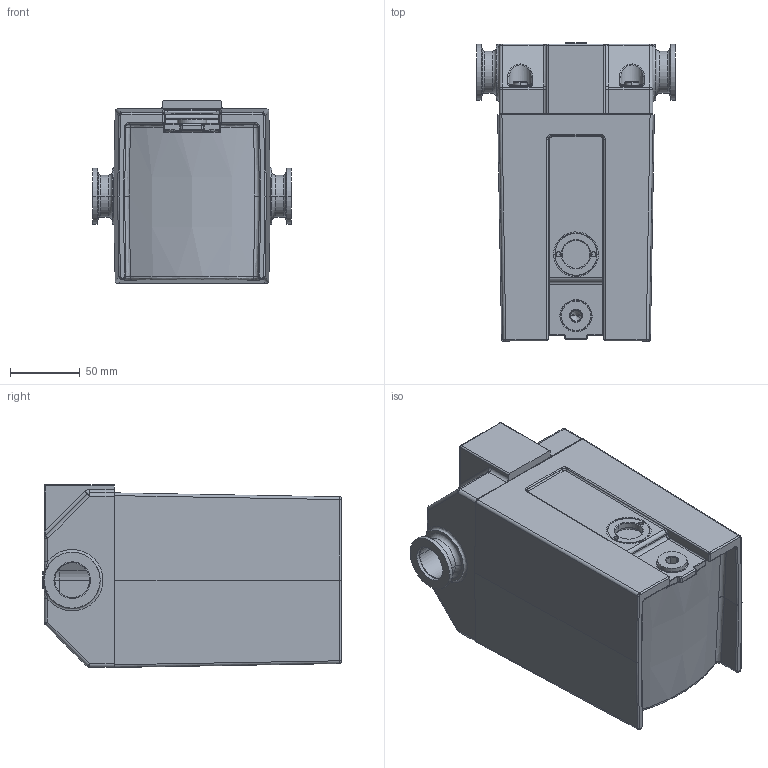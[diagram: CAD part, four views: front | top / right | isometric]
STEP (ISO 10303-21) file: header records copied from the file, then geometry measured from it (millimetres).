
FILE_DESCRIPTION((''),'2;1');
FILE_NAME('18911_ASM','2008-12-08T',('L0107439'),('Copyright by Leybold GmbH'),'PRO/ENGINEER BY PARAMETRIC TECHNOLOGY CORPORATION, 2007390','PRO/ENGINEER BY PARAMETRIC TECHNOLOGY CORPORATION, 2007390','');
FILE_SCHEMA(('AUTOMOTIVE_DESIGN { 1 0 10303 214 1 1 1 1 }'));
Length unit declared in the file: millimetre
Products named in the file (12): 853015792_PMD_600; 853001316_PNR_000; 853001321_PNR_000; 853017198_PMD_000; 853016738_PMD_000; 853015812_PMD_000; 853015826_PMD_000; 20009083_ASM; 20010752; 853007777_PMD_000; 853006231_PNR_000; 18911_ASM
Assembly tree (14 placements, depth 3):
  18911_ASM
    20009083_ASM
      853015792_PMD_600
      853001316_PNR_000
      853001321_PNR_000
      853017198_PMD_000
      853016738_PMD_000
      853015812_PMD_000
      853015826_PMD_000
    20010752
    853007777_PMD_000
    853006231_PNR_000  x4
Bounding box: 142 x 213.5 x 131 mm (x, y, z)
Volume: 835366.8 mm3; surface area: 280440.6 mm2
Topology: 14 solids, 21 shells, 1161 faces, 2733 edges, 1627 vertices
Faces by surface type: cylinder 447, plane 276, bspline 237, cone 115, torus 56, sphere 30
Entity records: 39488 total; most frequent: CARTESIAN_POINT 15613, ORIENTED_EDGE 4902, DIRECTION 4570, EDGE_CURVE 2459, AXIS2_PLACEMENT_3D 1780, VERTEX_POINT 1468, EDGE_LOOP 1135, FACE_OUTER_BOUND 1050
